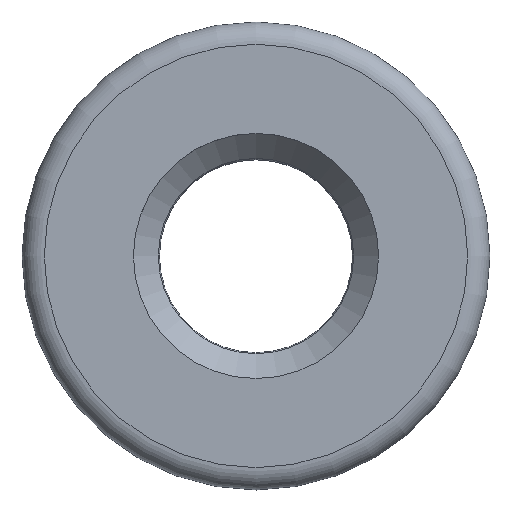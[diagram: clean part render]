
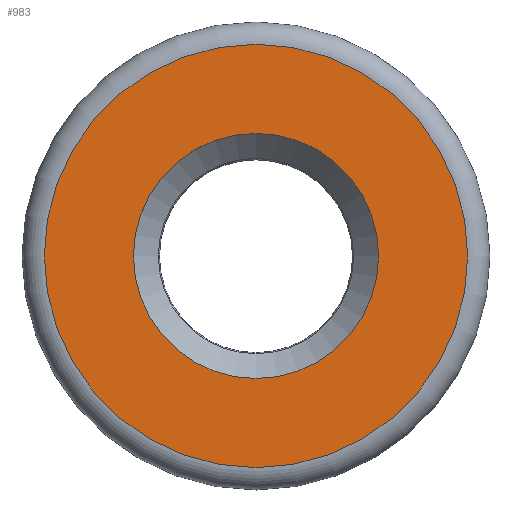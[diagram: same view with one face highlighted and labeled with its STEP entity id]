
A CAD part, top view. The second image highlights one B-rep face of the part: STEP entity #983.
In plain terms, the highlighted planar face has unit normal (0, 0, 1).
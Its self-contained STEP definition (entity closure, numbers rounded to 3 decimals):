
#68=PLANE('',#1126);
#142=FACE_BOUND('',#350,.T.);
#143=FACE_BOUND('',#351,.T.);
#350=EDGE_LOOP('',(#765));
#351=EDGE_LOOP('',(#766));
#461=CIRCLE('',#1127,16.5);
#462=CIRCLE('',#1128,28.5);
#544=VERTEX_POINT('',#1685);
#545=VERTEX_POINT('',#1687);
#627=EDGE_CURVE('',#544,#544,#461,.T.);
#628=EDGE_CURVE('',#545,#545,#462,.T.);
#765=ORIENTED_EDGE('',*,*,#627,.T.);
#766=ORIENTED_EDGE('',*,*,#628,.F.);
#983=ADVANCED_FACE('',(#142,#143),#68,.T.);
#1126=AXIS2_PLACEMENT_3D('',#1684,#1407,#1408);
#1127=AXIS2_PLACEMENT_3D('',#1686,#1409,#1410);
#1128=AXIS2_PLACEMENT_3D('',#1688,#1411,#1412);
#1407=DIRECTION('center_axis',(0.,0.,1.));
#1408=DIRECTION('ref_axis',(1.,0.,0.));
#1409=DIRECTION('center_axis',(0.,0.,-1.));
#1410=DIRECTION('ref_axis',(1.,0.,0.));
#1411=DIRECTION('center_axis',(0.,0.,-1.));
#1412=DIRECTION('ref_axis',(1.,0.,0.));
#1684=CARTESIAN_POINT('Origin',(0.,28.5,34.5));
#1685=CARTESIAN_POINT('',(0.,16.5,34.5));
#1686=CARTESIAN_POINT('Origin',(0.,0.,34.5));
#1687=CARTESIAN_POINT('',(0.,28.5,34.5));
#1688=CARTESIAN_POINT('Origin',(0.,0.,34.5));
